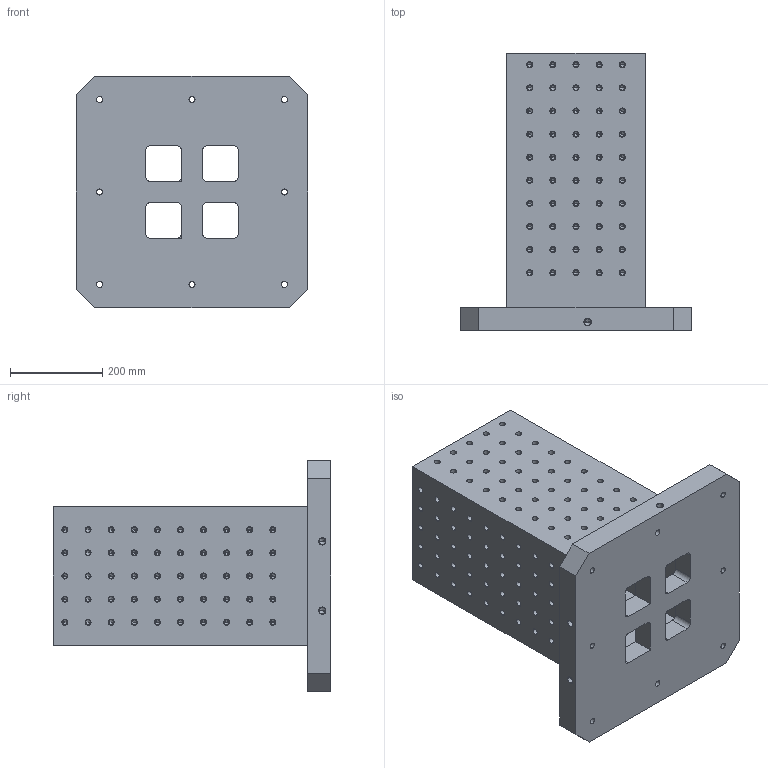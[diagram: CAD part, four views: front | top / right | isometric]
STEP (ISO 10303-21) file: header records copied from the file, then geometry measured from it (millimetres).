
FILE_DESCRIPTION((''),'2;1');
FILE_NAME('FG_WH_TOMB_SQGRDNP004','2026-05-19T13:31:12',('Admin'),(''),'CREO PARAMETRIC BY PTC INC, 2025010','CREO PARAMETRIC BY PTC INC, 2025010','');
FILE_SCHEMA(('CONFIG_CONTROL_DESIGN'));
Length unit declared in the file: millimetre
Products named in the file (1): FG_WH_TOMB_SQGRDNP004
Bounding box: 500 x 600 x 500 mm (x, y, z)
Volume: 35294801.5 mm3; surface area: 2239272.6 mm2
Topology: 1 solids, 205 shells, 2180 faces, 5282 edges, 3319 vertices
Faces by surface type: cylinder 1282, plane 492, cone 406
Entity records: 61943 total; most frequent: DIRECTION 12210, CARTESIAN_POINT 10376, ORIENTED_EDGE 8936, AXIS2_PLACEMENT_3D 5153, EDGE_CURVE 4876, VERTEX_POINT 3319, CIRCLE 2972, EDGE_LOOP 2839
